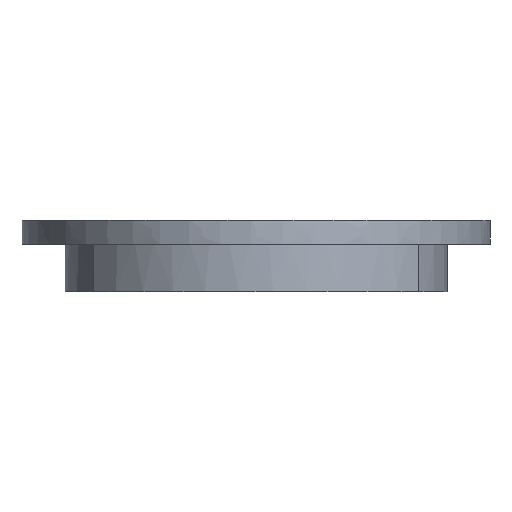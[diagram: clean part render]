
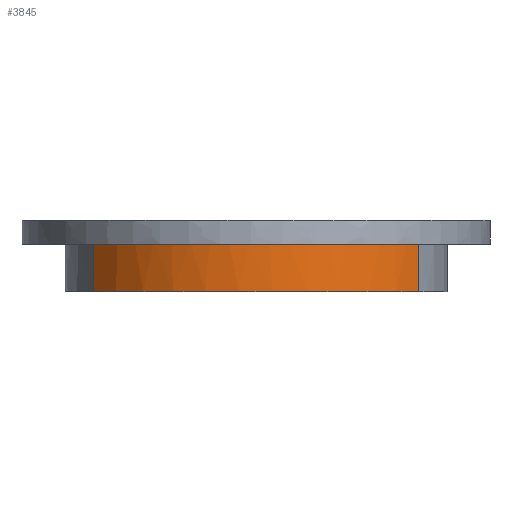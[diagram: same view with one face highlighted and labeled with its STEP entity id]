
A CAD part, left-side view. The second image highlights one B-rep face of the part: STEP entity #3845.
In plain terms, the highlighted cylindrical face has radius 53.975 mm (diameter 107.95 mm), a partial arc.
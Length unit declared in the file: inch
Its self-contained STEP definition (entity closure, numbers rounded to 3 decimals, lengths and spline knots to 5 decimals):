
#452=LINE('',#10483,#743);
#455=LINE('',#10546,#746);
#743=VECTOR('',#4639,0.3937);
#746=VECTOR('',#4644,0.3937);
#773=CYLINDRICAL_SURFACE('',#4030,2.125);
#790=CIRCLE('',#3975,2.125);
#1026=FACE_OUTER_BOUND('',#1266,.T.);
#1266=EDGE_LOOP('',(#3497,#3498,#3499,#3500));
#1478=B_SPLINE_CURVE_WITH_KNOTS('',3,(#10548,#10549,#10550,#10551,#10552,
#10553,#10554,#10555,#10556,#10557,#10558,#10559,#10560,#10561,#10562,#10563),
 .UNSPECIFIED.,.F.,.F.,(4,2,2,2,2,2,2,4),(-9.99432,-8.17,
-6.79221,-5.63037,-4.7556,-3.78626,
-2.04915,0.),.UNSPECIFIED.);
#1820=VERTEX_POINT('',#10203);
#1821=VERTEX_POINT('',#10211);
#1855=VERTEX_POINT('',#10473);
#1858=VERTEX_POINT('',#10539);
#2356=EDGE_CURVE('',#1820,#1821,#790,.T.);
#2406=EDGE_CURVE('',#1821,#1855,#452,.T.);
#2412=EDGE_CURVE('',#1820,#1858,#455,.T.);
#2413=EDGE_CURVE('',#1855,#1858,#1478,.T.);
#3497=ORIENTED_EDGE('',*,*,#2413,.F.);
#3498=ORIENTED_EDGE('',*,*,#2406,.F.);
#3499=ORIENTED_EDGE('',*,*,#2356,.F.);
#3500=ORIENTED_EDGE('',*,*,#2412,.T.);
#3845=ADVANCED_FACE('',(#1026),#773,.T.);
#3975=AXIS2_PLACEMENT_3D('',#10212,#4516,#4517);
#4030=AXIS2_PLACEMENT_3D('',#10547,#4645,#4646);
#4516=DIRECTION('center_axis',(0.,0.,-1.));
#4517=DIRECTION('ref_axis',(1.,0.,0.));
#4639=DIRECTION('',(0.,0.,1.));
#4644=DIRECTION('',(0.,0.,1.));
#4645=DIRECTION('center_axis',(0.,0.,1.));
#4646=DIRECTION('ref_axis',(-1.,0.,0.));
#10203=CARTESIAN_POINT('',(-1.28053,-1.69584,0.005));
#10211=CARTESIAN_POINT('',(-1.28059,1.69579,0.005));
#10212=CARTESIAN_POINT('Origin',(0.,0.,0.005));
#10473=CARTESIAN_POINT('',(-1.28059,1.69579,0.54179));
#10483=CARTESIAN_POINT('',(-1.28059,1.69579,0.005));
#10539=CARTESIAN_POINT('',(-1.28053,-1.69584,0.5418));
#10546=CARTESIAN_POINT('',(-1.28053,-1.69584,0.005));
#10547=CARTESIAN_POINT('Origin',(0.,0.,0.005));
#10548=CARTESIAN_POINT('Ctrl Pts',(-1.28059,1.69579,0.54179));
#10549=CARTESIAN_POINT('Ctrl Pts',(-1.4716,1.55155,0.53682));
#10550=CARTESIAN_POINT('Ctrl Pts',(-1.63687,1.37607,0.53117));
#10551=CARTESIAN_POINT('Ctrl Pts',(-1.86952,1.02625,0.52268));
#10552=CARTESIAN_POINT('Ctrl Pts',(-1.95002,0.86356,0.51955));
#10553=CARTESIAN_POINT('Ctrl Pts',(-2.05864,0.5485,
0.51547));
#10554=CARTESIAN_POINT('Ctrl Pts',(-2.09268,0.39944,
0.51425));
#10555=CARTESIAN_POINT('Ctrl Pts',(-2.12388,0.13399,
0.51321));
#10556=CARTESIAN_POINT('Ctrl Pts',(-2.12801,0.01907,
0.51309));
#10557=CARTESIAN_POINT('Ctrl Pts',(-2.11712,-0.22269,
0.51343));
#10558=CARTESIAN_POINT('Ctrl Pts',(-2.1,-0.349,
0.51399));
#10559=CARTESIAN_POINT('Ctrl Pts',(-2.02094,-0.69527,
0.51685));
#10560=CARTESIAN_POINT('Ctrl Pts',(-1.93477,-0.90788,
0.52021));
#10561=CARTESIAN_POINT('Ctrl Pts',(-1.67697,-1.33255,0.52978));
#10562=CARTESIAN_POINT('Ctrl Pts',(-1.49509,-1.53382,
0.5362));
#10563=CARTESIAN_POINT('Ctrl Pts',(-1.28053,-1.69584,0.5418));
